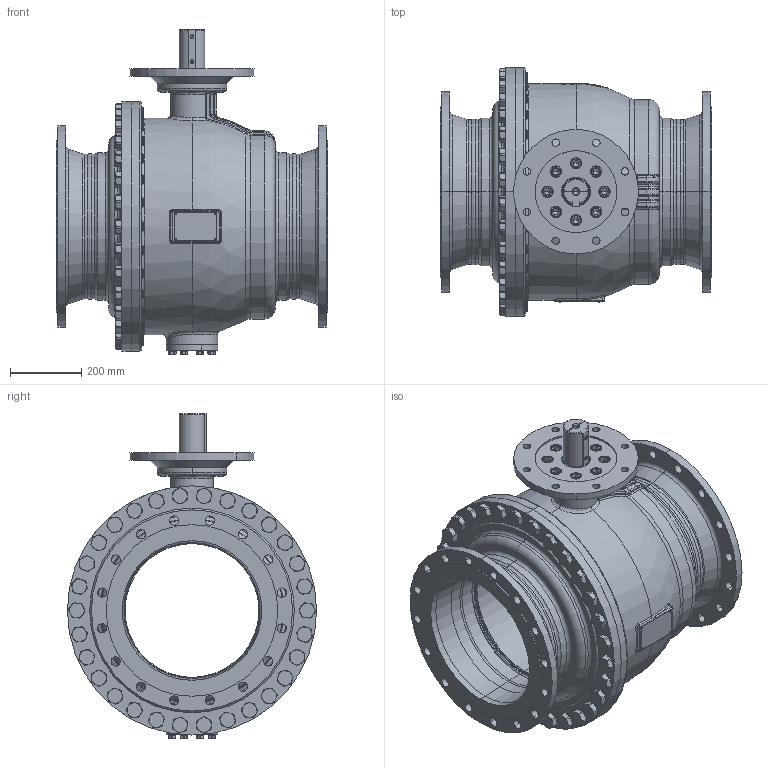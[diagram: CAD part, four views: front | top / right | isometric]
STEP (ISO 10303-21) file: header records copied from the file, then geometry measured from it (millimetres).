
FILE_DESCRIPTION((''),'2;1');
FILE_NAME('KHI-F_400_PN010-F30-P_SW0001','2026-02-05T16:33:31',('fischerkl'),('KLINGER'),'CREO PARAMETRIC BY PTC INC, 2023014','CREO PARAMETRIC BY PTC INC, 2023014','');
FILE_SCHEMA(('CONFIG_CONTROL_DESIGN'));
Products named in the file (1): KHI-F_400_PN010-F30-P_SW0001
Bounding box: 762 x 700 x 911.3 mm (x, y, z)
Volume: 51714982.9 mm3; surface area: 6755338.7 mm2
Topology: 1 solids, 4 shells, 3581 faces, 9022 edges, 5636 vertices
Faces by surface type: plane 1771, cylinder 861, cone 508, torus 311, bspline 99, sphere 31
Entity records: 153316 total; most frequent: CARTESIAN_POINT 68071, ORIENTED_EDGE 17992, DIRECTION 17656, EDGE_CURVE 8996, AXIS2_PLACEMENT_3D 6778, VERTEX_POINT 5636, VECTOR 4100, LINE 4100
